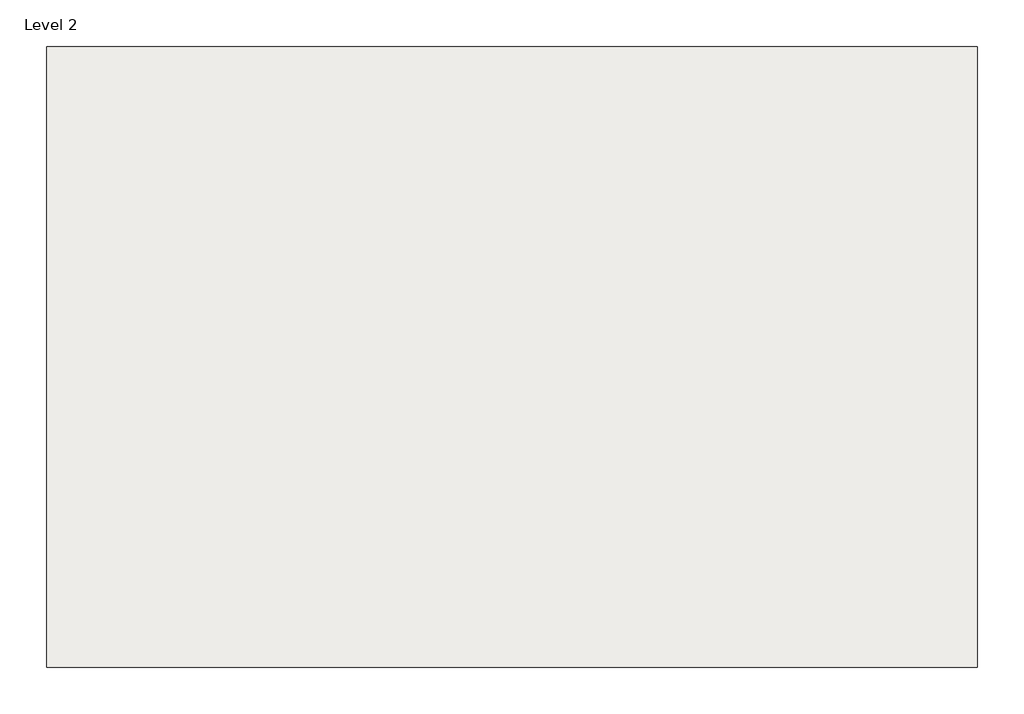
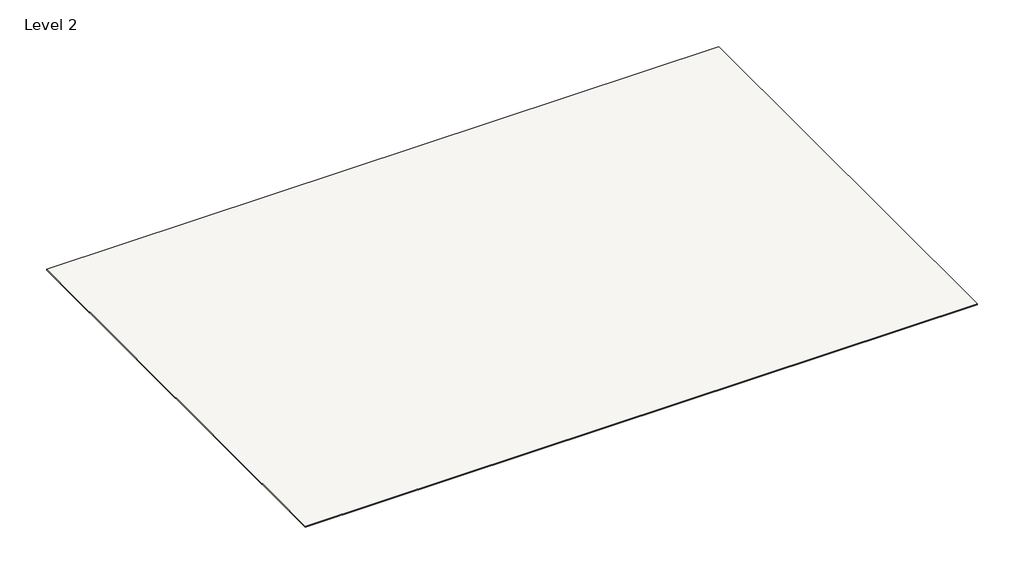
# One storey: 1 covering.
"""IFC4 building model written with IfcOpenShell, lengths in millimetres."""

from ifc_helpers import new_model, si_unit, frame, origin, place, context, project, spatial, polyline, outline, extrude, element, save

model = new_model("IFC4")

# Units and contexts
model_context = context("Model", 3, world=origin())
ifc_project = project(units=[si_unit("LENGTHUNIT", "METRE", prefix="MILLI")], contexts=[model_context])

# Site, building, storey
site = spatial("IfcSite", under=ifc_project)
building = spatial("IfcBuilding", under=site)
storey = spatial("IfcBuildingStorey", under=building, Name="Level 2", Elevation=7000.0)

# Covering
placement = place(None, origin())
element("IfcCovering", 1, ObjectType="GWB on Mtl Stud", at=placement, inside=storey, context=model_context, shape_type="SweptSolid", body=[
    extrude(outline(polyline([(11372.0161744, 10278.1535958), (11372.0161744, -9721.8464042), (-18627.9838256, -9721.8464042), (-18627.9838256, 10278.1535958), (11372.0161744, 10278.1535958)])), frame((0.0, 0.0, 7000.0), z_axis=(0.0, 0.0, 1.0), x_axis=(1.0, 0.0, 0.0)), (0.0, 0.0, 1.0), 57.0),
])

save(model, "model.ifc")
